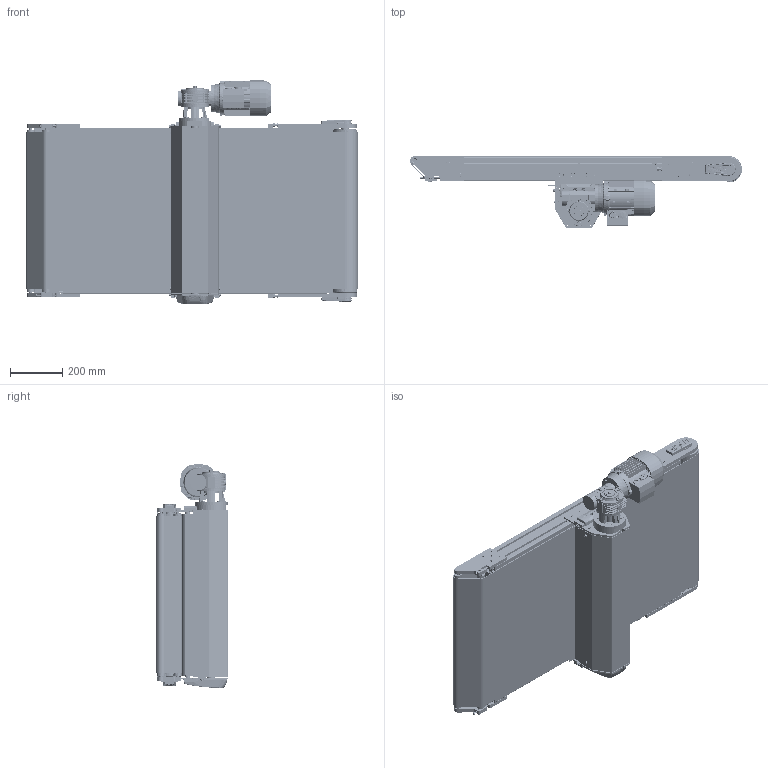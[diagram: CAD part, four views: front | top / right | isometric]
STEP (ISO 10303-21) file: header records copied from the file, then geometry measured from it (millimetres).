
FILE_DESCRIPTION (( 'STEP AP203' ), '1' );
FILE_NAME ('NASTRO_RETTILINEO_TAPPETO.step', '2026-04-27T09:00:04', ( 'Utente Windows' ), ( '' ), 'SwSTEP 2.0', 'SolidWorks 2024', '' );
FILE_SCHEMA (( 'CONFIG_CONTROL_DESIGN' ));
Length unit declared in the file: millimetre
Products named in the file (69): CHIAVETTE_A 8x7x20 UNI 6604-69; RONDELLE FASCIA LARGA UNI 6593_8.4x32 UNI 6593; 084.814.003-1; 084.303.001; 084.302.016; RULLO_TENSIONAMENTO_50-95_CENTRALE; BLOCCO_PERNO_95_RINVIO; BLOCCO_RINVIO_95_STANDARD_CON TENDINASTRO E CARTER; DADI ESAGONALI NORMALI UNI 5588_M6 UNI 5588; 456.015.101_456.015.101 SX; RULLO_95_Default<A macchina>; VITE_DADO_M5X12; 084.302.017; RONDELLE UNI 6592_8.4x17 UNI 6592; VITI TE UNI 5739_M6x12 UNI 5739; 30UNI7435; PERNO_TENSIONAMENTO_50-95_CENTRALE; BLOCCO_TRAINO_50-95_CENTRALE_49; LAMIERA_1_PENNA; 084.802.071; 084.802.019_084.802.019; 084.810.003; 084.803.003; 456.015.101_456.015.101 DX; 12UNI7435; VITI TE UNI 5739_M6x16 UNI 5739; 084.302.000 DADI ALUSIC 13x13-1_084.302.004; VITI TSEI UNI 5933_M6x12 UNI 5933; RONDELLE UNI 6592_6.4x12.5 UNI 6592; VITI TE UNI 5739_M10x25 UNI 5739; RULLO_95_PENNA; VITI TSEI UNI 5933_M8x20 UNI 5933; CHIAVETTE_A 8x7x70 UNI 6604-69; 084.802.070; BLOCCO_RINVIO_95_PENNA_SX; 084.802.020; TAPPETO_CENTRALE_1PENNA; 084.302.000 DADI ALUSIC 13x13_084.302.015; 084.802.004-1; 084.302.060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
Assembly tree (165 placements, depth 3):
  NASTRO_RETTILINEO_TAPPETO
    TAPPETO_CENTRALE_1PENNA
    TELAIO_95_STANDARD_Default<A macchina>
    LAMIERA_1_PENNA
    RULLO_95_Default<A macchina>  x2
    BLOCCO_PERNO_95_RINVIO  x3
      084.812.003
      084.810.003
      30UNI7435
    BLOCCO_RINVIO_95_STANDARD_CON TENDINASTRO E CARTER  x2
      084.808.002_084.808.002
      084.803.003
      084.302.060
      084.802.019_084.802.019
      VITI TSEI UNI 5933_M4x12 UNI 5933
      084.302.000 DADI ALUSIC 13x13-1_084.302.004
      084.301.000 VITI ALUSIC_084.301.003
      084.802.071
    RULLO_95_PENNA  x2
    BLOCCO_RINVIO_95_PENNA_SX
      456.015.101_456.015.101 SX
      084.802.036  x2
      084.301.000 VITI ALUSIC_084.301.003  x4
      VITI TE UNI 5739_M6x70 UNI 5739
      VITI TSEI UNI 5933_M8x30 UNI 5933
      084.302.016  x2
      12UNI7435  x2
    BLOCCO_RINVIO_95_PENNA_DX
      456.015.101_456.015.101 DX
      084.802.036  x2
      084.301.000 VITI ALUSIC_084.301.003  x4
      VITI TE UNI 5739_M6x70 UNI 5739
      VITI TSEI UNI 5933_M8x30 UNI 5933
      084.302.016  x2
      12UNI7435  x2
    PERNO_SUP_95_PENNA
    PERNO_INF_95_PENNA
    BLOCCO_TRAINO_50-95_CENTRALE_49
      084.802.021
      084.802.004-1  x2
      084.802.003
      084.802.011
      084.302.017
      VITI TSEI UNI 5933_M8x20 UNI 5933  x4
      VITI TSEI UNI 5933_M8x16 UNI 5933  x3
      VITI TE UNI 5739_M6x50 UNI 5739  x2
      DADI ESAGONALI NORMALI UNI 5588_M6 UNI 5588  x2
      VITI TE UNI 5739_M6x16 UNI 5739  x2
      RONDELLE UNI 6592_6.4x12.5 UNI 6592  x2
      VITI TSEI UNI 5933_M6x12 UNI 5933  x4
      VITI TE UNI 5739_M10x25 UNI 5739  x4
      084.802.070
    BLOCCO_TRAINO_50-95_CENTRALE
      084.802.004-1  x2
      084.802.020
      084.802.003
      VITI TSEI UNI 5933_M8x20 UNI 5933  x4
      VITI TSEI UNI 5933_M6x12 UNI 5933  x6
      RONDELLE UNI 6592_8.4x17 UNI 6592  x2
      VITI TE UNI 5739_M8x12 UNI 5739  x2
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Bounding box: 1267.5 x 272.5 x 853.9 mm (x, y, z)
Volume: 20341156.2 mm3; surface area: 12569587 mm2
Topology: 232 solids, 242 shells, 9614 faces, 24154 edges, 15109 vertices
Faces by surface type: plane 3904, cylinder 2884, bspline 1389, cone 1056, torus 354, sphere 27
Entity records: 249253 total; most frequent: CARTESIAN_POINT 95997, ORIENTED_EDGE 32032, DIRECTION 27264, EDGE_CURVE 16016, VERTEX_POINT 10068, AXIS2_PLACEMENT_3D 10000, LINE 7264, VECTOR 7264
